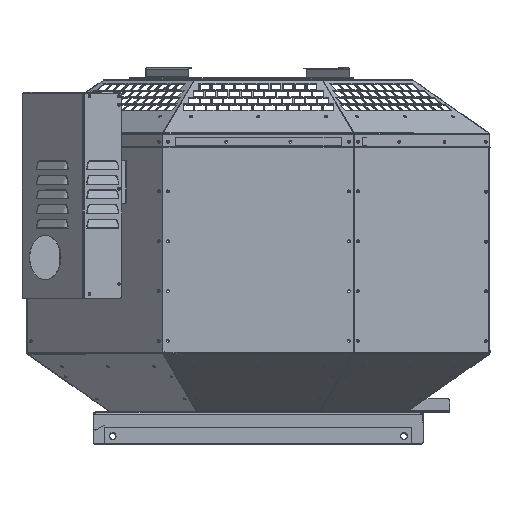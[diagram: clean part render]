
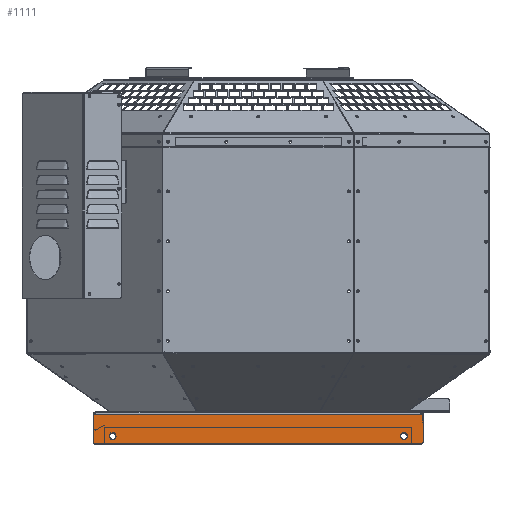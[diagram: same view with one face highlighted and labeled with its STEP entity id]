
A CAD part, top view. The second image highlights one B-rep face of the part: STEP entity #1111.
In plain terms, the highlighted planar face has unit normal (0, 0, 1).
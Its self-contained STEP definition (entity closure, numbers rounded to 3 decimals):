
#1111 = ADVANCED_FACE ( 'NONE', ( #20812, #94012, #23843 ), #2395, .T. ) ;
#1551 = AXIS2_PLACEMENT_3D ( 'NONE', #38670, #105480, #48285 ) ;
#1919 = ORIENTED_EDGE ( 'NONE', *, *, #75176, .F. ) ;
#2395 = PLANE ( 'NONE',  #31810 ) ;
#3656 = CARTESIAN_POINT ( 'NONE',  ( 204.5, -13.2, 220.3 ) ) ;
#3940 = CARTESIAN_POINT ( 'NONE',  ( 204.5, -17.7, 220.3 ) ) ;
#4378 = DIRECTION ( 'NONE',  ( 0., 0., 1. ) ) ;
#4607 = EDGE_CURVE ( 'NONE', #55108, #111533, #103109, .T. ) ;
#5814 = DIRECTION ( 'NONE',  ( 0., -1., 0. ) ) ;
#5948 = CIRCLE ( 'NONE', #59746, 4.5 ) ;
#7210 = ORIENTED_EDGE ( 'NONE', *, *, #103111, .T. ) ;
#8162 = VERTEX_POINT ( 'NONE', #76513 ) ;
#9932 = CARTESIAN_POINT ( 'NONE',  ( -231.75, 17.6, 220.3 ) ) ;
#10313 = VECTOR ( 'NONE', #56630, 1000. ) ;
#10319 = CIRCLE ( 'NONE', #114285, 3. ) ;
#10553 = CIRCLE ( 'NONE', #60882, 4.5 ) ;
#13195 = DIRECTION ( 'NONE',  ( 0., -1., 0. ) ) ;
#14303 = ORIENTED_EDGE ( 'NONE', *, *, #115252, .F. ) ;
#16651 = VERTEX_POINT ( 'NONE', #116425 ) ;
#18774 = ORIENTED_EDGE ( 'NONE', *, *, #114229, .F. ) ;
#18942 = CARTESIAN_POINT ( 'NONE',  ( 215.75, 17.6, 220.3 ) ) ;
#18947 = VERTEX_POINT ( 'NONE', #65933 ) ;
#19855 = VECTOR ( 'NONE', #77113, 1000. ) ;
#19918 = CARTESIAN_POINT ( 'NONE',  ( -215.75, 17.6, 220.3 ) ) ;
#20168 = EDGE_CURVE ( 'NONE', #110012, #8162, #84797, .T. ) ;
#20812 = FACE_BOUND ( 'NONE', #28443, .T. ) ;
#21352 = ORIENTED_EDGE ( 'NONE', *, *, #36060, .T. ) ;
#22074 = DIRECTION ( 'NONE',  ( 0., 0., 1. ) ) ;
#22832 = VERTEX_POINT ( 'NONE', #3940 ) ;
#22879 = LINE ( 'NONE', #105995, #19855 ) ;
#22991 = EDGE_CURVE ( 'NONE', #100918, #91224, #105471, .T. ) ;
#23843 = FACE_OUTER_BOUND ( 'NONE', #36434, .T. ) ;
#24910 = LINE ( 'NONE', #9932, #50238 ) ;
#25345 = EDGE_CURVE ( 'NONE', #22832, #16651, #52735, .T. ) ;
#25665 = ORIENTED_EDGE ( 'NONE', *, *, #22991, .F. ) ;
#26955 = VECTOR ( 'NONE', #76072, 1000. ) ;
#28443 = EDGE_LOOP ( 'NONE', ( #55190, #18774 ) ) ;
#29545 = DIRECTION ( 'NONE',  ( -1., 0., 0. ) ) ;
#31222 = DIRECTION ( 'NONE',  ( 0., 0., 1. ) ) ;
#31810 = AXIS2_PLACEMENT_3D ( 'NONE', #78751, #31222, #97991 ) ;
#34002 = VECTOR ( 'NONE', #29545, 1000. ) ;
#34383 = CARTESIAN_POINT ( 'NONE',  ( -215.75, -24., 220.3 ) ) ;
#34779 = DIRECTION ( 'NONE',  ( -1., 0., 0. ) ) ;
#36060 = EDGE_CURVE ( 'NONE', #100918, #18947, #10319, .T. ) ;
#36434 = EDGE_LOOP ( 'NONE', ( #25665, #21352, #83853, #61348, #7210, #69596, #52589, #119932 ) ) ;
#37319 = CARTESIAN_POINT ( 'NONE',  ( -204.5, -13.2, 220.3 ) ) ;
#38670 = CARTESIAN_POINT ( 'NONE',  ( 204.5, -13.2, 220.3 ) ) ;
#39522 = VERTEX_POINT ( 'NONE', #54496 ) ;
#42091 = CARTESIAN_POINT ( 'NONE',  ( 231.75, 17.6, 220.3 ) ) ;
#42295 = VERTEX_POINT ( 'NONE', #78624 ) ;
#44238 = CARTESIAN_POINT ( 'NONE',  ( -228.75, -24., 220.3 ) ) ;
#46917 = DIRECTION ( 'NONE',  ( 0., -1., 0. ) ) ;
#48285 = DIRECTION ( 'NONE',  ( 0., -1., 0. ) ) ;
#49407 = EDGE_CURVE ( 'NONE', #8162, #42295, #24910, .T. ) ;
#50238 = VECTOR ( 'NONE', #57461, 1000. ) ;
#52589 = ORIENTED_EDGE ( 'NONE', *, *, #49407, .T. ) ;
#52735 = CIRCLE ( 'NONE', #1551, 4.5 ) ;
#54496 = CARTESIAN_POINT ( 'NONE',  ( -204.5, -17.7, 220.3 ) ) ;
#55077 = LINE ( 'NONE', #104284, #10313 ) ;
#55108 = VERTEX_POINT ( 'NONE', #65634 ) ;
#55190 = ORIENTED_EDGE ( 'NONE', *, *, #25345, .F. ) ;
#55308 = EDGE_LOOP ( 'NONE', ( #1919, #14303 ) ) ;
#56630 = DIRECTION ( 'NONE',  ( 0., -1., 0. ) ) ;
#57461 = DIRECTION ( 'NONE',  ( 0., -1., 0. ) ) ;
#57676 = CARTESIAN_POINT ( 'NONE',  ( -204.5, -8.7, 220.3 ) ) ;
#59746 = AXIS2_PLACEMENT_3D ( 'NONE', #37319, #104113, #46917 ) ;
#60882 = AXIS2_PLACEMENT_3D ( 'NONE', #120301, #62960, #5814 ) ;
#61348 = ORIENTED_EDGE ( 'NONE', *, *, #4607, .F. ) ;
#61505 = CARTESIAN_POINT ( 'NONE',  ( -228.75, -21., 220.3 ) ) ;
#61820 = EDGE_CURVE ( 'NONE', #111533, #18947, #55077, .T. ) ;
#62960 = DIRECTION ( 'NONE',  ( 0., 0., 1. ) ) ;
#65634 = CARTESIAN_POINT ( 'NONE',  ( 228.35, 17.6, 220.3 ) ) ;
#65933 = CARTESIAN_POINT ( 'NONE',  ( 231.75, -21., 220.3 ) ) ;
#69596 = ORIENTED_EDGE ( 'NONE', *, *, #20168, .T. ) ;
#70355 = DIRECTION ( 'NONE',  ( 0., 0., 1. ) ) ;
#71068 = DIRECTION ( 'NONE',  ( 0., -1., 0. ) ) ;
#71105 = VERTEX_POINT ( 'NONE', #57676 ) ;
#75176 = EDGE_CURVE ( 'NONE', #39522, #71105, #10553, .T. ) ;
#76072 = DIRECTION ( 'NONE',  ( 1., 0., 0. ) ) ;
#76513 = CARTESIAN_POINT ( 'NONE',  ( -231.75, 17.6, 220.3 ) ) ;
#77113 = DIRECTION ( 'NONE',  ( -1., 0., 0. ) ) ;
#78624 = CARTESIAN_POINT ( 'NONE',  ( -231.75, -21., 220.3 ) ) ;
#78751 = CARTESIAN_POINT ( 'NONE',  ( -215.75, 19.5, 220.3 ) ) ;
#79225 = CARTESIAN_POINT ( 'NONE',  ( 228.75, -21., 220.3 ) ) ;
#79718 = AXIS2_PLACEMENT_3D ( 'NONE', #3656, #70355, #13195 ) ;
#80042 = VECTOR ( 'NONE', #34779, 1000. ) ;
#80726 = CIRCLE ( 'NONE', #100738, 3. ) ;
#83853 = ORIENTED_EDGE ( 'NONE', *, *, #61820, .F. ) ;
#84797 = LINE ( 'NONE', #19918, #34002 ) ;
#88839 = DIRECTION ( 'NONE',  ( 0., -1., 0. ) ) ;
#91224 = VERTEX_POINT ( 'NONE', #44238 ) ;
#94012 = FACE_BOUND ( 'NONE', #55308, .T. ) ;
#97991 = DIRECTION ( 'NONE',  ( 0., -1., 0. ) ) ;
#100738 = AXIS2_PLACEMENT_3D ( 'NONE', #61505, #4378, #71068 ) ;
#100918 = VERTEX_POINT ( 'NONE', #110361 ) ;
#103109 = LINE ( 'NONE', #18942, #26955 ) ;
#103111 = EDGE_CURVE ( 'NONE', #55108, #110012, #22879, .T. ) ;
#104113 = DIRECTION ( 'NONE',  ( 0., 0., 1. ) ) ;
#104284 = CARTESIAN_POINT ( 'NONE',  ( 231.75, 17.6, 220.3 ) ) ;
#105430 = EDGE_CURVE ( 'NONE', #42295, #91224, #80726, .T. ) ;
#105471 = LINE ( 'NONE', #34383, #80042 ) ;
#105480 = DIRECTION ( 'NONE',  ( 0., 0., 1. ) ) ;
#105995 = CARTESIAN_POINT ( 'NONE',  ( -215.75, 17.6, 220.3 ) ) ;
#110012 = VERTEX_POINT ( 'NONE', #122673 ) ;
#110361 = CARTESIAN_POINT ( 'NONE',  ( 228.75, -24., 220.3 ) ) ;
#111533 = VERTEX_POINT ( 'NONE', #42091 ) ;
#113938 = CIRCLE ( 'NONE', #79718, 4.5 ) ;
#114229 = EDGE_CURVE ( 'NONE', #16651, #22832, #113938, .T. ) ;
#114285 = AXIS2_PLACEMENT_3D ( 'NONE', #79225, #22074, #88839 ) ;
#115252 = EDGE_CURVE ( 'NONE', #71105, #39522, #5948, .T. ) ;
#116425 = CARTESIAN_POINT ( 'NONE',  ( 204.5, -8.7, 220.3 ) ) ;
#119932 = ORIENTED_EDGE ( 'NONE', *, *, #105430, .T. ) ;
#120301 = CARTESIAN_POINT ( 'NONE',  ( -204.5, -13.2, 220.3 ) ) ;
#122673 = CARTESIAN_POINT ( 'NONE',  ( -228.35, 17.6, 220.3 ) ) ;
